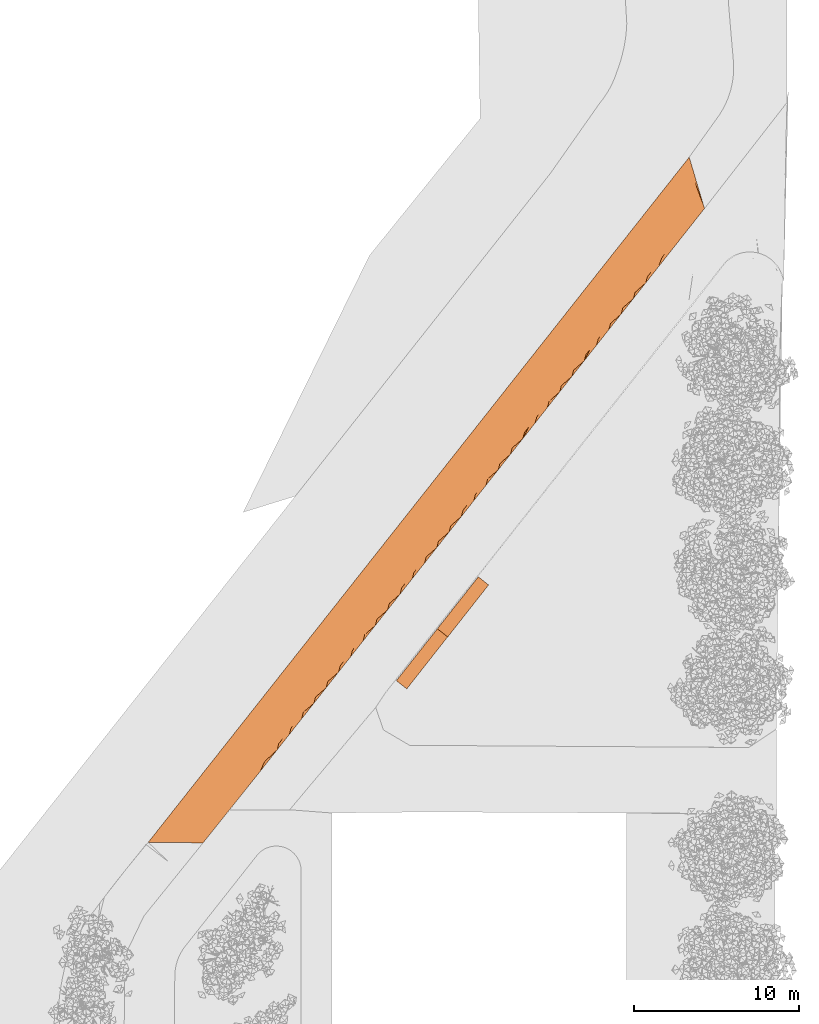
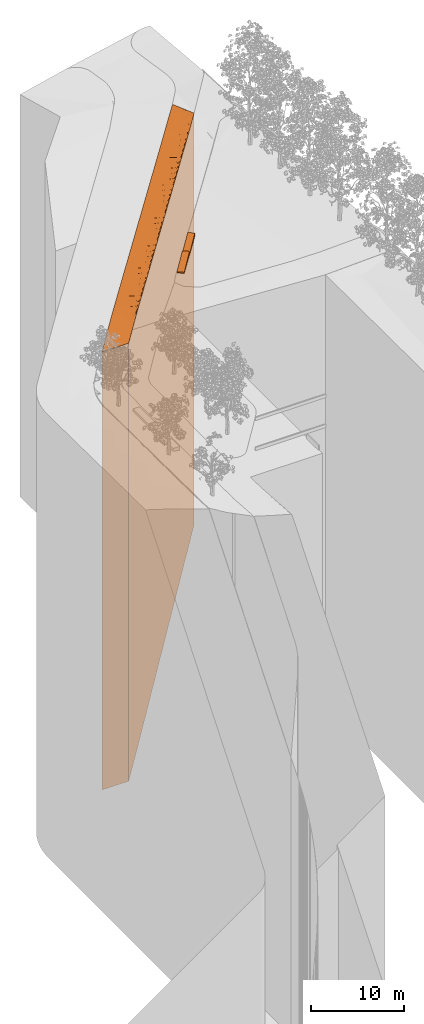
# One storey, part 66 of 69: 3 proxies.
"""IFC2X3 building model written with IfcOpenShell, lengths in millimetres."""

from ifc_helpers import new_model, entity, si_unit, converted_unit, derived_unit, money_unit, direction, frame, origin_with_axes, place, context, subcontext, project, spatial, faceted_brep, material, type_object, element, save


model = new_model("IFC2X3")

# Units and contexts
model_context = context("Model", 3, precision=0.01, world=origin_with_axes(), true_north=direction((0.0, 1.0)))
body_context = subcontext(model_context, "Body", "Model", "MODEL_VIEW")
ifc_project = project(units=[si_unit("LENGTHUNIT", "METRE", prefix="MILLI"), si_unit("AREAUNIT", "SQUARE_METRE"), si_unit("VOLUMEUNIT", "CUBIC_METRE"), converted_unit("PLANEANGLEUNIT", "DEGREE", entity("IfcPlaneAngleMeasure", 0.0174532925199), si_unit("PLANEANGLEUNIT", "RADIAN"), dimensions=[0, 0, 0, 0, 0, 0, 0]), si_unit("SOLIDANGLEUNIT", "STERADIAN"), money_unit("EUR"), converted_unit("TIMEUNIT", "Year", entity("IfcTimeMeasure", 31556926.0), si_unit("TIMEUNIT", "SECOND"), dimensions=[0, 0, 1, 0, 0, 0, 0]), si_unit("MASSUNIT", "GRAM", prefix="KILO"), si_unit("THERMODYNAMICTEMPERATUREUNIT", "DEGREE_CELSIUS"), si_unit("LUMINOUSINTENSITYUNIT", "LUMEN"), si_unit("ENERGYUNIT", "JOULE", prefix="MEGA"), derived_unit("THERMALCONDUCTANCEUNIT", [(si_unit("POWERUNIT", "WATT"), 1), (si_unit("LENGTHUNIT", "METRE"), -1), (si_unit("THERMODYNAMICTEMPERATUREUNIT", "KELVIN"), -1)]), derived_unit("SPECIFICHEATCAPACITYUNIT", [(si_unit("ENERGYUNIT", "JOULE"), 1), (si_unit("MASSUNIT", "GRAM", prefix="KILO"), -1), (si_unit("THERMODYNAMICTEMPERATUREUNIT", "KELVIN"), -1)]), derived_unit("MASSDENSITYUNIT", [(si_unit("MASSUNIT", "GRAM", prefix="KILO"), 1), (si_unit("VOLUMEUNIT", "CUBIC_METRE"), -1)])], contexts=[model_context])

# Site, building, storey
site_placement = place(None, origin_with_axes())
site = spatial("IfcSite", under=ifc_project, at=site_placement, Name="Puškini 31, Narva", CompositionType="ELEMENT")
building_placement = place(site_placement, origin_with_axes())
building = spatial("IfcBuilding", under=site, at=building_placement, Name="Narva Riigigümnaasium", CompositionType="ELEMENT")
storey_placement = place(building_placement, origin_with_axes())
storey = spatial("IfcBuildingStorey", under=building, at=storey_placement, Name="1.korrus 0.00", CompositionType="ELEMENT", Elevation=0.0)

# Proxies
ifc_material_1 = material(Name="Asfalt")
building_element_proxy_type_1 = type_object("IfcBuildingElementProxyType", Name="Asfalt", PredefinedType="NOTDEFINED")
proxy_1_placement = place(storey_placement, frame((25874.5959359, 252635.487904, -61100.0), z_axis=(0.0, 0.0, 1.0), x_axis=(1.0, 0.0, 0.0)))
element("IfcBuildingElementProxy", 1, at=proxy_1_placement, inside=storey, type_object=building_element_proxy_type_1, material=ifc_material_1, Name="Parkimisala", context=body_context, shape_type="Brep", body=[
    faceted_brep([(16062.9358611, 16344.6718173, 56400.0), (16183.803295, 16497.6630665, 56400.0), (14946.3485989, 16786.8903604, 56400.0), (15963.3462531, 15967.0791096, 56500.0), (15413.2322143, 17837.4282396, 56300.0), (15840.1877212, 16062.1845772, 56500.0), (15905.4928432, 16010.6211525, 56500.0), (16706.3144493, 16908.2751349, 56400.0), (14381.9167743, 18245.8753236, 56300.0), (16583.2919546, 17003.3267257, 56400.0), (15564.1524818, 15712.7854492, 56500.0), (15957.914218, 15969.2304387, 56500.0), (16701.0184514, 16910.3725872, 56400.0), (16625.1522511, 16970.274797, 56400.0), (33634.0707869, 38352.446047, 0.0), (33634.0707869, 38352.446047, 54300.0), (33389.4854656, 38042.6040733, 54300.0), (32049.1365108, 36344.6429558, 54400.0), (30839.847649, 34812.7094545, 54500.0), (30079.741979, 33849.8035872, 54600.0), (29336.7737828, 32908.6075619, 54700.0), (28593.8055865, 31967.4115365, 54800.0), (27850.8373909, 31026.215512, 54900.0), (27107.8691946, 30085.0194866, 55000.0), (26364.9009984, 29143.8234613, 55100.0), (25621.9328021, 28202.627436, 55200.0), (24878.9646064, 27261.4314114, 55300.0), (24135.9964102, 26320.235386, 55400.0), (23393.0282139, 25379.0393607, 55500.0), (22650.0600177, 24437.8433354, 55600.0), (21907.0918214, 23496.64731, 55700.0), (21164.1236263, 22555.4512862, 55800.0), (20421.15543, 21614.2552608, 55900.0), (19678.1872338, 20673.0592355, 56000.0), (18935.2190375, 19731.8632102, 56100.0), (18192.2508413, 18790.6671849, 56200.0), (17449.2826456, 17849.4711602, 56300.0), (15220.3780568, 15025.8830843, 56600.0), (14477.4098612, 14084.6870597, 56700.0), (13734.4416649, 13143.4910343, 56800.0), (12991.4734687, 12202.295009, 56900.0), (12248.5052724, 11261.0989837, 57000.0), (11505.5370761, 10319.9029583, 57100.0), (10762.5688805, 9378.70693375, 57200.0), (10019.6006842, 8437.51090841, 57300.0), (9276.63248798, 7496.31488309, 57400.0), (8533.66429172, 6555.11885775, 57500.0), (7790.69609547, 5613.92283243, 57600.0), (6782.21159704, 4336.36935664, 57700.0), (6782.21159704, 4336.36935664, 0.0), (16890.8612496, 18487.6656836, 56200.0), (15125.0210004, 19187.017475, 56200.0), (16792.5339127, 17291.1630191, 56300.0), (13650.649872, 17319.7251532, 56400.0), (14479.4649837, 15736.3524812, 56500.0), (32709.092891, 41457.2598816, 0.0), (32709.092891, 41457.2598816, 53900.0), (33125.2286493, 38034.9273539, 54300.0), (32284.7339248, 37362.3568907, 54300.0), (31244.4987278, 35620.2295868, 54400.0), (30436.8184536, 34549.0219872, 54500.0), (29438.8120632, 33285.2304866, 54600.0), (28695.7078298, 32344.0883381, 54700.0), (27957.9535869, 31409.7180865, 54800.0), (27338.3027737, 30624.8404692, 54900.0), (26718.6519606, 29839.9628529, 55000.0), (25723.2908961, 28579.519745, 55100.0), (24980.1866627, 27638.3775974, 55200.0), (24239.787094, 26700.6589523, 55300.0), (23620.1362809, 25915.781335, 55400.0), (23000.4854678, 25130.9037186, 55500.0), (22007.7697288, 23873.8090034, 55600.0), (21264.6654953, 22932.6668559, 55700.0), (20521.620601, 21991.599818, 55800.0), (19901.9697879, 21206.7222008, 55900.0), (19282.3189747, 20421.8445835, 56000.0), (18292.2485614, 19168.0982619, 56100.0), (17549.144328, 18226.9561143, 56200.0), (16819.5564002, 17302.9225979, 56300.0), (14576.7273942, 14462.3875212, 56600.0), (13833.6231608, 13521.2453727, 56700.0), (13117.8616895, 12614.7130707, 56800.0), (12465.6368021, 11788.6039322, 56900.0), (11845.985989, 11003.726315, 57000.0), (10861.206227, 9756.67677962, 57100.0), (10118.1019937, 8815.53463204, 57200.0), (9416.16697886, 7926.50354354, 57300.0), (8747.47030916, 7079.54479707, 57400.0), (8127.81949609, 6294.66718074, 57500.0), (7034.04383654, 4909.57233382, 57600.0), (3315.72664944, 0.0, 57800.0), (3315.72664944, 0.0, 0.0), (13650.649872, 17319.7251532, 0.0), (0.0, 31.1651631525, 0.0), (13639.5579659, 17305.6767364, 0.0), (17734.0213145, 19389.1812426, 56100.0), (15868.125226, 20128.1596257, 56100.0), (17267.1376993, 18338.6433643, 56200.0), (16611.2294521, 21069.3017771, 56000.0), (17354.3336783, 22010.4439285, 55900.0), (18097.4379044, 22951.5860799, 55800.0), (18840.5421306, 23892.7282313, 55700.0), (19583.6463561, 24833.870382, 55600.0), (20326.7505823, 25775.0125334, 55500.0), (21069.8548084, 26716.1546848, 55400.0), (21812.959034, 27657.2968355, 55300.0), (22556.0632601, 28598.4389869, 55200.0), (23299.1674863, 29539.5811383, 55100.0), (24042.2717118, 30480.723289, 55000.0), (24785.375938, 31421.8654404, 54900.0), (25528.4801641, 32363.0075918, 54800.0), (26271.5843902, 33304.1497432, 54700.0), (27014.6886158, 34245.2918938, 54600.0), (27757.792842, 35186.4340453, 54500.0), (28500.8970681, 36127.5761966, 54400.0), (29418.1348267, 37289.2586189, 54300.0), (30477.8719398, 38631.4165982, 54200.0), (31408.6613364, 39810.262182, 54100.0), (31755.4511992, 40249.4718461, 54000.0), (13639.5579659, 17305.6767364, 56400.0), (13638.8128536, 17304.7330512, 56400.0), (12895.7085501, 16363.5909304, 56500.0), (15319.8316276, 15403.5296688, 56500.0), (16806.0400946, 17285.8139658, 56300.0), (32873.8789029, 40642.1085931, 54000.0), (32853.2184619, 38599.2770096, 54200.0), (32633.7475767, 38086.164854, 54300.0), (32422.1831963, 37625.7736499, 54300.0), (32770.4943249, 38024.6222421, 54300.0), (32723.7563677, 38047.5265411, 54300.0), (32063.2475848, 36937.8860112, 54300.0), (31770.6488568, 36439.1089177, 54400.0), (31670.5479474, 36268.6974368, 54400.0), (31444.0520216, 35923.959505, 54400.0), (31899.0239858, 36361.5907002, 54400.0), (31804.0715941, 36420.5957198, 54400.0), (31050.2509087, 35354.6317603, 54400.0), (30672.7838506, 34847.7016197, 54500.0), (30836.3625984, 34813.5184712, 54500.0), (30789.0031279, 34850.0000637, 54500.0), (30718.1957302, 34905.9079593, 54500.0), (30181.9162966, 34226.3726342, 54500.0), (29817.1676404, 33764.1443699, 54600.0), (30076.8946536, 33850.9312556, 54600.0), (30049.9275812, 33872.2238369, 54600.0), (29959.1681567, 33943.8853941, 54600.0), (29330.2681732, 32912.5701925, 54700.0), (29197.5168273, 32979.2667536, 54700.0), (29333.7904201, 32909.7891071, 54700.0), (29216.0639232, 33002.7432456, 54700.0), (28590.6861865, 31968.6469586, 54800.0), (28472.9596897, 32061.6010971, 54800.0), (27952.6035964, 31402.9461905, 54800.0), (27847.5819532, 31027.504811, 54900.0), (27773.2228606, 31086.2170431, 54900.0), (27729.8554564, 31120.4589495, 54900.0), (27209.499363, 30461.804042, 54900.0), (27104.4777197, 30086.3626625, 55000.0), (27053.5634526, 30126.5633986, 55000.0), (26986.7512229, 30179.316801, 55000.0), (26466.3951295, 29520.6618935, 55000.0), (26099.0011474, 29055.0852357, 55100.0), (26361.3734863, 29145.220514, 55100.0), (26333.9040446, 29166.9097542, 55100.0), (26243.6469895, 29238.1746525, 55100.0), (25614.2446367, 28207.2561098, 55200.0), (25479.3503345, 28270.2076193, 55200.0), (25618.2692528, 28204.0783655, 55200.0), (25500.5427559, 28297.032504, 55200.0), (24875.1650195, 27262.9362179, 55300.0), (24757.4385227, 27355.8903564, 55300.0), (24237.0824293, 26697.2354489, 55300.0), (24132.060786, 26321.7940694, 55400.0), (24057.1993242, 26380.9029613, 55400.0), (24014.3342891, 26414.7482079, 55400.0), (23493.9781957, 25756.0933004, 55400.0), (23388.9565524, 25380.6519209, 55500.0), (23337.5399162, 25421.2493169, 55500.0), (23271.2300556, 25473.6060594, 55500.0), (22750.8739622, 24814.9511519, 55500.0), (22380.8346546, 24346.0261014, 55600.0), (22645.852319, 24439.5097724, 55600.0), (22617.8805082, 24461.5956725, 55600.0), (22528.1258222, 24532.4639109, 55600.0), (21898.2211003, 23501.9420281, 55700.0), (21761.1838414, 23561.1484841, 55700.0), (21902.7480855, 23498.3676239, 55700.0), (21785.0215887, 23591.3217624, 55700.0), (21159.6438522, 22557.2254773, 55800.0), (21041.9173554, 22650.1796158, 55800.0), (20521.5612619, 21991.5247074, 55800.0), (20416.5396187, 21616.0833288, 55900.0), (20341.1757876, 21675.5888787, 55900.0), (20298.8131219, 21709.0374673, 55900.0), (19778.4570283, 21050.3825589, 55900.0), (19673.4353853, 20674.9411803, 56000.0), (19621.5163796, 20715.9352343, 56000.0), (19555.7088884, 20767.8953188, 56000.0), (19035.3527949, 20109.2404104, 56000.0), (18662.6681617, 19636.9669672, 56100.0), (18930.3311518, 19733.7990318, 56100.0), (18901.8569716, 19756.2815899, 56100.0), (18812.6046549, 19826.7531703, 56100.0), (18182.1975637, 18796.6279454, 56200.0), (18043.0173485, 18852.0893499, 56200.0), (18187.2269183, 18792.6568833, 56200.0), (18069.5004215, 18885.6110218, 56200.0), (17444.1226849, 17851.5147357, 56300.0), (17326.3961881, 17944.4688742, 56300.0), (14944.5016688, 14927.9078329, 56600.0), (15214.8099845, 15028.0882902, 56600.0), (15185.8334352, 15050.9675081, 56600.0), (15097.0834876, 15121.0424287, 56600.0), (14466.1740274, 14091.3138646, 56700.0), (14324.8508557, 14143.0302166, 56700.0), (14471.7057512, 14086.9461426, 56700.0), (14353.9792543, 14179.9002811, 56700.0), (13728.6015177, 13145.8039941, 56800.0), (13610.8750208, 13238.7581326, 56800.0), (13090.5189273, 12580.1032242, 56800.0), (12985.4972842, 12204.6618456, 56900.0), (12909.1287146, 12264.9607143, 56900.0), (12867.7707874, 12297.6159841, 56900.0), (12347.414694, 11638.9610766, 56900.0), (12242.3930507, 11263.5196971, 57000.0), (12189.4693067, 11305.3070699, 57000.0), (12124.6665539, 11356.4738356, 57000.0), (11604.3104605, 10697.8189281, 57000.0), (11226.3351758, 10218.8486977, 57100.0), (11499.2888172, 10322.3775486, 57100.0), (11469.8098987, 10345.6534255, 57100.0), (11381.5623203, 10415.3316871, 57100.0), (10750.1504909, 9385.99978199, 57200.0), (10606.6843629, 9433.97108232, 57200.0), (10756.1845839, 9381.23540101, 57200.0), (10638.4580871, 9474.18953951, 57200.0), (10013.0803504, 8440.09325252, 57300.0), (9895.35385354, 8533.04739102, 57300.0), (9374.99776015, 7874.39248354, 57300.0), (9269.97611696, 7498.95110401, 57400.0), (9193.10517817, 7559.64663259, 57400.0), (9152.24962012, 7591.90524251, 57400.0), (8631.89352674, 6933.25033503, 57400.0), (8526.87188343, 6557.80895551, 57500.0), (8473.44577028, 6599.99298817, 57500.0), (8409.1453866, 6650.76309402, 57500.0), (7888.78929321, 5992.10818654, 57500.0), (7306.44675994, 5254.45454171, 57600.0), (7783.76765002, 5616.666807, 57600.0), (7753.78636228, 5640.33934376, 57600.0), (7666.04115318, 5709.62094551, 57600.0), (6700.52015506, 4396.12719149, 57700.0), (5774.707985, 3314.62239897, 57700.0), (0.0, 31.1651631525, 57800.0), (3028.26241325, 3866.4622644, 57700.0), (4287.5982199, 5461.41220917, 57600.0), (5464.66594598, 6952.16955505, 57500.0), (6207.77015528, 7893.31171214, 57400.0), (6950.87436518, 8834.45386999, 57300.0), (7693.97857506, 9775.59602782, 57200.0), (8437.08278496, 10716.7381857, 57100.0), (8869.80481657, 11264.7810324, 57000.0), (9180.18703335, 11657.8803273, 57000.0), (9923.29133682, 12599.0224481, 56900.0), (10666.3956403, 13540.1645689, 56800.0), (11409.4999438, 14481.3066896, 56700.0), (12152.6042472, 15422.4488104, 56600.0), (18200.9049298, 20439.7191218, 56000.0), (18667.7885451, 21490.257001, 55900.0), (19134.6721602, 22540.7948793, 55800.0), (20620.1985173, 23187.9046302, 55700.0), (21455.4612606, 24092.5478822, 55600.0), (20988.5776454, 23042.010004, 55700.0), (21922.3448759, 25143.0857614, 55500.0), (22389.2284912, 26193.6236407, 55400.0), (22856.1121064, 27244.1615199, 55300.0), (24349.5357853, 27888.1435777, 55200.0), (25176.9012068, 28795.9145228, 55100.0), (24710.0175915, 27745.3766446, 55200.0), (25643.7848219, 29846.4524011, 55000.0), (26110.6684371, 30896.9902803, 54900.0), (26577.5520525, 31947.5281595, 54800.0), (28078.8730529, 32588.3825233, 54700.0), (28898.3411527, 33499.2811625, 54600.0), (28431.4575375, 32448.7432833, 54700.0), (29365.2247679, 34549.8190417, 54500.0), (29606.2634972, 35689.8016062, 54400.0), (29233.1376291, 35837.5761541, 54400.0), (29903.4096719, 37175.0685718, 54300.0), (30828.086843, 38625.8658005, 54200.0), (31875.7710389, 40211.575474, 54000.0), (32601.3417712, 40514.6280864, 54000.0), (14012.5813685, 14685.8146029, 56600.0), (32635.5453493, 40530.3461214, 54000.0), (33055.9481876, 39933.66595, 54100.0), (33034.0717312, 39051.3214719, 54200.0), (32966.5580505, 38882.5703854, 54200.0), (32175.0146944, 38575.9852598, 54200.0), (32053.1105114, 36920.6286884, 54300.0), (30290.3083603, 37126.4016211, 54300.0), (30025.5818452, 35580.0704614, 54400.0), (13545.6977533, 13635.2767246, 56700.0), (13161.5239818, 13787.4267361, 56700.0), (13063.1966449, 12590.9240716, 56800.0), (11691.7922682, 13134.0615999, 56800.0), (11224.908653, 12083.5237207, 56900.0), (10758.0250376, 11032.9858415, 57000.0), (10291.1414225, 9982.44796323, 57100.0), (9824.25780716, 8931.91008403, 57200.0), (9432.18671404, 9087.18778957, 57200.0), (9357.37419192, 7881.37220481, 57300.0), (9333.85937713, 7890.68512501, 57300.0), (7970.35232213, 8430.69495933, 57300.0), (7503.46870678, 7380.15708013, 57400.0), (7036.58509167, 6329.61920184, 57500.0), (6525.14174688, 5011.8253925, 57600.0), (6656.42621117, 4430.94275762, 57700.0), (6774.152708, 4337.98861912, 57700.0), (6268.7552048, 3940.12264731, 57700.0), (5335.47953002, 3402.87602183, 57700.0), (5538.28071989, 5210.11414205, 57600.0), (5899.50412007, 6779.95417119, 57500.0), (8904.11955261, 10531.7707178, 57100.0), (9628.84138773, 11480.1931178, 57000.0), (29797.5275811, 35631.5417985, 54400.0), (31926.5460214, 40199.6537455, 54000.0), (32563.6104143, 39539.0855246, 54100.0), (31937.9653158, 40209.7776919, 54000.0), (33176.2043607, 39465.7418784, 54147.1558383), (33114.0942909, 39284.6456695, 54181.0524382), (32759.9639753, 39713.1654625, 54100.0), (32957.8055385, 39888.5651248, 54100.0)], [[[0, 1, 2]], [[0, 3, 1]], [[4, 2, 1]], [[0, 2, 5]], [[3, 0, 6]], [[7, 1, 3]], [[4, 8, 2]], [[1, 9, 4]], [[10, 5, 2]], [[5, 6, 0]], [[6, 11, 3]], [[1, 7, 12, 13, 9]], [[14, 15, 16, 17, 18, 19, 20, 21, 22, 23, 24, 25, 26, 27, 28, 29, 30, 31, 32, 33, 34, 35, 36, 7, 3, 37, 38, 39, 40, 41, 42, 43, 44, 45, 46, 47, 48, 49]], [[50, 51, 8, 4, 52]], [[53, 2, 8]], [[52, 4, 9]], [[10, 3, 11, 6, 5]], [[2, 54, 10]], [[13, 12, 7]], [[9, 13, 52]], [[55, 56, 15, 14]], [[16, 15, 57]], [[16, 58, 17]], [[17, 59, 18]], [[18, 60, 19]], [[20, 19, 61]], [[21, 20, 62]], [[21, 63, 22]], [[22, 64, 23]], [[23, 65, 24]], [[25, 24, 66]], [[26, 25, 67]], [[26, 68, 27]], [[27, 69, 28]], [[28, 70, 29]], [[30, 29, 71]], [[31, 30, 72]], [[31, 73, 32]], [[32, 74, 33]], [[33, 75, 34]], [[35, 34, 76]], [[35, 77, 36]], [[36, 78, 7]], [[3, 10, 37]], [[38, 37, 79]], [[39, 38, 80]], [[39, 81, 40]], [[40, 82, 41]], [[41, 83, 42]], [[42, 84, 43]], [[44, 43, 85]], [[44, 86, 45]], [[45, 87, 46]], [[47, 46, 88]], [[48, 47, 89]], [[49, 48, 90, 91]], [[92, 55, 14, 49, 91, 93, 94]], [[95, 96, 51, 50, 97]], [[92, 53, 8, 51, 96, 98, 99, 100, 101, 102, 103, 104, 105, 106, 107, 108, 109, 110, 111, 112, 113, 114, 115, 116, 117, 118, 56, 55]], [[52, 78, 50]], [[53, 119, 120, 2]], [[2, 120, 121, 54]], [[122, 10, 54]], [[7, 123, 13]], [[123, 52, 13]], [[15, 56, 124]], [[125, 57, 15]], [[126, 127, 58, 16, 57, 128, 129]], [[130, 17, 58]], [[131, 132, 133, 59, 17, 134, 135]], [[59, 136, 18]], [[137, 60, 18, 138, 139, 140]], [[141, 19, 60]], [[142, 61, 19, 143, 144, 145]], [[20, 61, 146]], [[147, 62, 20, 148, 146, 149]], [[21, 62, 150]], [[63, 21, 150, 151]], [[152, 22, 63]], [[64, 22, 153, 154, 155]], [[156, 23, 64]], [[65, 23, 157, 158, 159]], [[160, 24, 65]], [[161, 66, 24, 162, 163, 164]], [[25, 66, 165]], [[166, 67, 25, 167, 165, 168]], [[26, 67, 169]], [[68, 26, 169, 170]], [[171, 27, 68]], [[69, 27, 172, 173, 174]], [[175, 28, 69]], [[70, 28, 176, 177, 178]], [[179, 29, 70]], [[180, 71, 29, 181, 182, 183]], [[30, 71, 184]], [[185, 72, 30, 186, 184, 187]], [[31, 72, 188]], [[73, 31, 188, 189]], [[190, 32, 73]], [[74, 32, 191, 192, 193]], [[194, 33, 74]], [[75, 33, 195, 196, 197]], [[198, 34, 75]], [[199, 76, 34, 200, 201, 202]], [[35, 76, 203]], [[204, 77, 35, 205, 203, 206]], [[36, 77, 207]], [[78, 36, 207, 208]], [[123, 7, 78]], [[122, 37, 10]], [[209, 79, 37, 210, 211, 212]], [[38, 79, 213]], [[214, 80, 38, 215, 213, 216]], [[39, 80, 217]], [[81, 39, 217, 218]], [[219, 40, 81]], [[82, 40, 220, 221, 222]], [[223, 41, 82]], [[83, 41, 224, 225, 226]], [[227, 42, 83]], [[228, 84, 42, 229, 230, 231]], [[43, 84, 232]], [[233, 85, 43, 234, 232, 235]], [[44, 85, 236]], [[86, 44, 236, 237]], [[238, 45, 86]], [[87, 45, 239, 240, 241]], [[242, 46, 87]], [[243, 244, 245, 88, 46]], [[88, 246, 47]], [[247, 89, 47, 248, 249, 250]], [[48, 89, 251]], [[90, 48, 252]], [[91, 90, 253, 93]], [[93, 253, 254, 255, 256, 257, 258, 259, 260, 261, 262, 263, 264, 265, 266, 121, 120, 119, 94]], [[94, 119, 53, 92]], [[95, 267, 98, 96]], [[97, 50, 208, 77]], [[95, 97, 204]], [[267, 268, 99, 98]], [[269, 100, 99, 268]], [[270, 101, 100, 269, 73]], [[271, 102, 101, 270, 272]], [[273, 103, 102, 271]], [[274, 104, 103, 273]], [[275, 105, 104, 274]], [[276, 106, 105, 275]], [[277, 107, 106, 276, 278]], [[277, 279, 108, 107]], [[279, 280, 109, 108]], [[281, 110, 109, 280]], [[282, 111, 110, 281]], [[283, 112, 111, 282, 284]], [[285, 113, 112, 283]], [[286, 287, 114, 113, 285]], [[114, 287, 115]], [[115, 288, 116]], [[116, 289, 117]], [[118, 117, 290]], [[56, 118, 291]], [[52, 123, 78]], [[78, 208, 50]], [[292, 54, 121, 266]], [[122, 54, 212]], [[293, 124, 56]], [[15, 124, 294]], [[125, 128, 57]], [[15, 295, 296, 125]], [[126, 297, 127]], [[58, 127, 297]], [[129, 128, 125]], [[126, 129, 125]], [[298, 17, 130]], [[130, 58, 289]], [[131, 299, 132]], [[133, 132, 299]], [[59, 133, 300, 136]], [[17, 298, 134]], [[135, 134, 298]], [[131, 135, 298]], [[18, 136, 139]], [[137, 300, 60]], [[139, 138, 18]], [[140, 139, 136]], [[137, 140, 300]], [[19, 141, 144]], [[141, 60, 285]], [[61, 142, 283]], [[144, 143, 19]], [[145, 144, 141]], [[142, 145, 285]], [[149, 146, 61]], [[146, 148, 20]], [[284, 62, 147]], [[147, 149, 283]], [[150, 62, 151]], [[63, 151, 282]], [[22, 152, 154]], [[152, 63, 281]], [[22, 154, 153]], [[155, 154, 152]], [[281, 64, 155]], [[23, 156, 158]], [[156, 64, 280]], [[158, 157, 23]], [[159, 158, 156]], [[65, 159, 280]], [[24, 160, 163]], [[160, 65, 279]], [[66, 161, 277]], [[163, 162, 24]], [[164, 163, 160]], [[161, 164, 279]], [[168, 165, 66]], [[165, 167, 25]], [[278, 67, 166]], [[166, 168, 277]], [[169, 67, 170]], [[68, 170, 276]], [[27, 171, 173]], [[171, 68, 275]], [[27, 173, 172]], [[174, 173, 171]], [[275, 69, 174]], [[28, 175, 177]], [[175, 69, 274]], [[28, 177, 176]], [[178, 177, 175]], [[70, 178, 274]], [[29, 179, 182]], [[179, 70, 273]], [[71, 180, 271]], [[29, 182, 181]], [[183, 182, 179]], [[180, 183, 273]], [[187, 184, 71]], [[184, 186, 30]], [[272, 72, 185]], [[185, 187, 271]], [[188, 72, 189]], [[73, 189, 270]], [[32, 190, 192]], [[190, 73, 269]], [[192, 191, 32]], [[193, 192, 190]], [[269, 74, 193]], [[33, 194, 196]], [[194, 74, 268]], [[196, 195, 33]], [[197, 196, 194]], [[75, 197, 268]], [[34, 198, 201]], [[198, 75, 267]], [[76, 199, 95]], [[201, 200, 34]], [[202, 201, 198]], [[199, 202, 267]], [[206, 203, 76]], [[203, 205, 35]], [[97, 77, 204]], [[204, 206, 95]], [[207, 77, 208]], [[37, 122, 211]], [[79, 209, 292]], [[37, 211, 210]], [[212, 211, 122]], [[209, 212, 54]], [[216, 213, 79]], [[213, 215, 38]], [[301, 80, 214]], [[214, 216, 292]], [[217, 80, 218]], [[81, 218, 302]], [[40, 219, 221]], [[303, 219, 81]], [[221, 220, 40]], [[222, 221, 303]], [[82, 222, 304]], [[41, 223, 225]], [[223, 82, 305]], [[225, 224, 41]], [[226, 225, 223]], [[83, 226, 305]], [[42, 227, 230]], [[227, 83, 306]], [[84, 228, 307]], [[230, 229, 42]], [[231, 230, 227]], [[228, 231, 306]], [[235, 232, 84]], [[232, 234, 43]], [[308, 85, 233]], [[233, 235, 307]], [[236, 85, 237]], [[86, 237, 309]], [[45, 238, 240]], [[310, 238, 86, 311]], [[240, 239, 45]], [[241, 240, 310]], [[87, 241, 312]], [[242, 244, 46]], [[242, 87, 313]], [[243, 46, 244]], [[244, 242, 245]], [[313, 88, 245]], [[246, 88, 314]], [[246, 249, 47]], [[315, 89, 247]], [[248, 47, 249]], [[249, 246, 250]], [[314, 247, 250]], [[316, 251, 89]], [[251, 317, 48]], [[318, 252, 48, 317, 251, 316]], [[90, 252, 319, 254]], [[254, 253, 90]], [[319, 320, 255, 254]], [[255, 320, 256]], [[256, 321, 314, 313, 257]], [[257, 313, 312, 258]], [[309, 259, 258, 312, 311]], [[307, 322, 260, 259, 309, 308]], [[260, 322, 261]], [[262, 261, 323]], [[323, 306, 305, 263, 262]], [[263, 305, 304, 264]], [[302, 265, 264, 304, 303]], [[292, 266, 265, 302, 301]], [[267, 95, 199]], [[268, 267, 75]], [[269, 268, 74]], [[272, 270, 189, 72]], [[271, 272, 185]], [[273, 271, 180]], [[274, 273, 70]], [[275, 274, 69]], [[276, 275, 68]], [[278, 276, 170, 67]], [[277, 278, 166]], [[279, 277, 161]], [[280, 279, 65]], [[281, 280, 64]], [[282, 281, 63]], [[284, 282, 151, 62]], [[283, 284, 147]], [[285, 283, 142]], [[287, 286, 288]], [[286, 285, 324]], [[288, 115, 287]], [[288, 299, 116]], [[289, 116, 299]], [[289, 297, 117]], [[325, 290, 117, 326]], [[327, 291, 118, 290, 325]], [[291, 293, 56]], [[54, 292, 209]], [[124, 293, 294]], [[15, 294, 328]], [[15, 329, 295]], [[296, 295, 326]], [[125, 296, 297]], [[125, 297, 126]], [[297, 289, 58]], [[298, 130, 299]], [[289, 299, 130]], [[298, 299, 131]], [[299, 300, 133]], [[136, 300, 140]], [[300, 285, 60]], [[141, 285, 145]], [[61, 283, 149]], [[152, 281, 155]], [[156, 280, 159]], [[160, 279, 164]], [[66, 277, 168]], [[171, 275, 174]], [[175, 274, 178]], [[179, 273, 183]], [[71, 271, 187]], [[190, 269, 193]], [[194, 268, 197]], [[198, 267, 202]], [[76, 95, 206]], [[79, 292, 216]], [[301, 302, 218, 80]], [[292, 301, 214]], [[303, 81, 302]], [[219, 303, 221]], [[303, 304, 222]], [[304, 305, 82]], [[223, 305, 226]], [[305, 306, 83]], [[227, 306, 231]], [[306, 307, 228]], [[84, 307, 235]], [[308, 309, 237, 85]], [[307, 308, 233]], [[311, 86, 309]], [[238, 310, 240]], [[311, 312, 241, 310]], [[312, 313, 87]], [[313, 245, 242]], [[313, 314, 88]], [[314, 250, 246]], [[315, 316, 89]], [[314, 315, 247]], [[319, 252, 318]], [[318, 316, 315]], [[320, 319, 318]], [[256, 320, 321]], [[321, 315, 314]], [[306, 323, 322, 307]], [[323, 261, 322]], [[286, 324, 288]], [[324, 285, 300]], [[299, 288, 324]], [[326, 117, 297]], [[326, 330, 327, 325]], [[291, 327, 330]], [[294, 293, 291, 331]], [[294, 331, 328]], [[15, 328, 329]], [[295, 329, 326]], [[326, 297, 296]], [[324, 300, 299]], [[320, 318, 315]], [[321, 320, 315]], [[330, 326, 329]], [[330, 331, 291]], [[331, 330, 328]], [[329, 328, 330]]]),
])
ifc_material_2 = material(Name="Puit - Põrand")
building_element_proxy_type_2 = type_object("IfcBuildingElementProxyType", Name="Puit - Põrand 500", PredefinedType="NOTDEFINED")
proxy_2_placement = place(storey_placement, frame((45833.2924317, 268720.006596, -4255.56997601), z_axis=(0.0, 0.0, 1.0), x_axis=(1.0, 0.0, 0.0)))
element("IfcBuildingElementProxy", 2, at=proxy_2_placement, inside=storey, type_object=building_element_proxy_type_2, material=ifc_material_2, Name="Pink-2", context=body_context, shape_type="Brep", body=[
    faceted_brep([(-1153.7118133, -2752.34786979, -228.280704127), (-1035.20012832, -2601.57458511, -244.430023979), (623.345299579, -491.535039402, -470.436266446), (623.345299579, -491.535039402, 0.0), (-1848.54354883, -3636.32874539, 0.0), (-1848.54354883, -3636.32874539, -133.447666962), (-1768.38500669, -3534.34920899, -144.43002397), (-1728.39732099, -2191.93917976, -243.420468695), (-1720.97281336, -2182.52348063, -244.430023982), (0.0, 0.0, -478.441124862), (0.0, 0.0, 0.0), (-2476.73970958, -3140.98080434, 0.0), (-2425.72177709, -3181.2096841, -140.883964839), (-2476.73970958, -3140.98080434, -141.941639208), (-2415.27572442, -3138.84430048, -144.43002397), (-2111.3556026, -2677.60370347, -191.290996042), (-2457.91670518, -3117.10962592, -144.430021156)], [[[0, 1, 2, 3, 4, 5, 6]], [[1, 0, 7, 8]], [[9, 2, 1, 8]], [[2, 9, 10, 3]], [[3, 10, 11, 4]], [[12, 5, 4, 11, 13]], [[6, 5, 12, 14]], [[0, 6, 14, 15, 7]], [[16, 13, 11, 10, 9, 8, 7, 15]], [[12, 13, 16, 14]], [[16, 15, 14]]]),
])
proxy_3_placement = place(storey_placement, frame((43356.5527221, 265579.025792, -3900.0), z_axis=(0.0, 0.0, 1.0), x_axis=(1.0, 0.0, 0.0)))
element("IfcBuildingElementProxy", 3, at=proxy_3_placement, inside=storey, type_object=building_element_proxy_type_2, material=ifc_material_2, Name="Pink-2", context=body_context, shape_type="Brep", body=[
    faceted_brep([(-769.783267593, -2263.90516539, -299.999999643), (-372.718786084, -1758.75062208, -352.610566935), (623.345299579, -491.535039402, -489.079259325), (623.345299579, -491.535039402, 0.0), (-1848.54354883, -3636.32874539, 0.0), (-1848.54354883, -3636.32874539, -157.065558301), (0.0, 0.0, -497.511615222), (51.0177277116, -40.2297102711, -496.453871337), (-1494.0471579, -1894.73824221, -299.99999861), (0.0, 0.0, 0.0), (-2476.73970958, -3140.98080434, 0.0), (-2476.73970958, -3140.98080434, -170.088977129)], [[[0, 1, 2, 3, 4, 5]], [[6, 7, 1, 0, 8]], [[7, 2, 1]], [[7, 6, 9, 3, 2]], [[3, 9, 10, 4]], [[11, 5, 4, 10]], [[0, 5, 11, 8]], [[8, 11, 10, 9, 6]]]),
])

save(model, "model.ifc")
